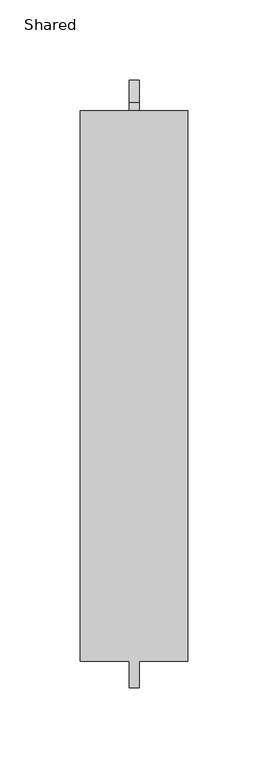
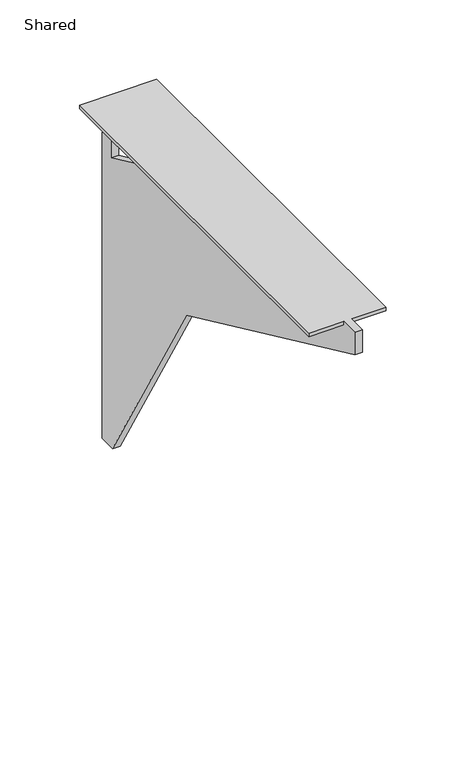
"""IFC4 building model written with IfcOpenShell, lengths in millimetres: furniture geometry, Steelcase - Answer Solution - Panel Mounted Universal Support - Cantilever : Shared."""

from ifc_helpers import new_model, si_unit, origin, place, context, project, spatial, faceted_brep, source, transform, mapped, element, save


def shared_88433d17(model_context):
    return source(origin(), model_context, "Body", "Brep", [
        faceted_brep([(3.302, -378.005924, 693.7373789), (3.302, -378.005924, 673.1603645), (3.302, -126.1876465, 556.5973486), (3.302, -15.8528841, 367.9598803), (3.302, 0.0, 367.9598803), (3.302, 0.0, 646.9179983), (3.302, -13.564579, 653.112751), (3.302, -13.564579, 631.915353), (3.302, -93.4246754, 668.6474859), (3.302, -90.6996964, 682.9788786), (3.302, -18.8652729, 683.2686138), (3.302, -18.8652729, 690.6147928), (3.302, -361.7652002, 690.6147928), (3.302, -361.7652002, 693.7373789), (-3.0476124, -18.8652729, 683.2686138), (-3.0476124, -90.6996964, 682.9788786), (-3.0476124, -93.4246754, 668.6474859), (-3.0476124, -13.564579, 631.915353), (-3.0476124, -13.564579, 653.112751), (-3.0476124, 0.0, 646.9179983), (-3.0476124, 0.0, 367.9598803), (-3.0476124, -15.8528841, 367.9598803), (-3.0476124, -126.1876465, 556.5973486), (-3.0476124, -378.005924, 673.1603645), (-3.0476124, -378.005924, 693.7373789), (-3.0476124, -361.7652002, 693.7373789), (-3.0476124, -361.7652002, 690.6147928), (-3.0476124, -18.8652729, 690.6147928), (-33.528, -18.8651276, 693.7373789), (-33.528, -361.7652002, 693.7373789), (33.274, -361.7652002, 693.7373789), (33.274, -18.8651276, 693.7373789), (33.274, -18.8652729, 690.6147928), (-33.528, -18.8652729, 690.6147928), (33.274, -361.7652002, 690.6147928), (-33.528, -361.7652002, 690.6147928)], [[[0, 1, 2, 3, 4, 5, 6, 7, 8, 9, 10, 11, 12, 13]], [[14, 15, 16, 17, 18, 19, 20, 21, 22, 23, 24, 25, 26, 27]], [[28, 29, 25, 24, 0, 13, 30, 31]], [[1, 0, 24, 23]], [[2, 1, 23, 22]], [[3, 2, 22, 21]], [[4, 3, 21, 20]], [[5, 4, 20, 19]], [[6, 5, 19, 18]], [[7, 6, 18, 17]], [[8, 7, 17, 16]], [[9, 8, 16, 15]], [[10, 9, 15, 14]], [[28, 31, 32, 11, 10, 14, 27, 33]], [[32, 34, 12, 11]], [[35, 33, 27, 26]], [[29, 28, 33, 35]], [[29, 35, 26, 25]], [[34, 30, 13, 12]], [[31, 30, 34, 32]]]),
    ])


if __name__ == "__main__":
    model = new_model("IFC4")
    model_context = context("Model", 3, world=origin())
    ifc_project = project(units=[si_unit("LENGTHUNIT", "METRE", prefix="MILLI")], contexts=[model_context])
    site = spatial("IfcSite", under=ifc_project)
    building = spatial("IfcBuilding", under=site)
    placement = place(None, origin())
    shared_shape = shared_88433d17(model_context)
    element("IfcFurniture", 1, ObjectType="Steelcase - Answer Solution - Panel Mounted Universal Support - Cantilever : Shared", at=placement, inside=building, context=model_context, shape_type="MappedRepresentation", body=[
        mapped(shared_shape, transform((0.0, 0.0, 0.0), x_axis=(1.0, 0.0, 0.0), y_axis=(0.0, 1.0, 0.0), z_axis=(0.0, 0.0, 1.0))),
    ])
    save(model, "model.ifc")
